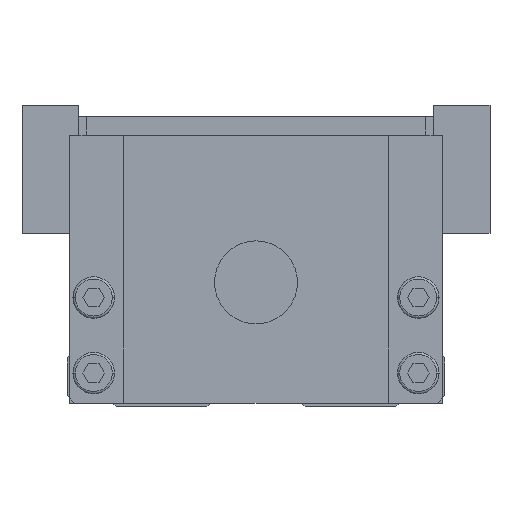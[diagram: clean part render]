
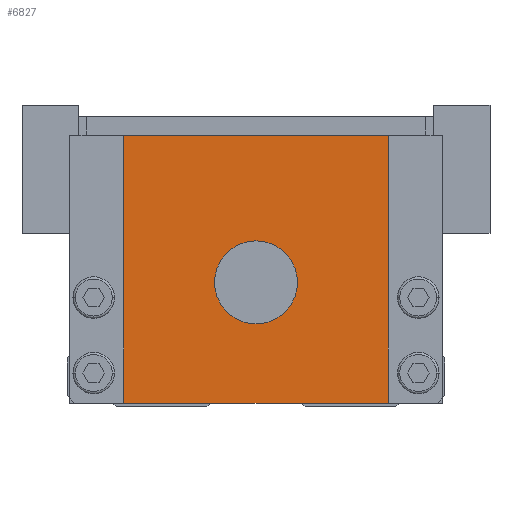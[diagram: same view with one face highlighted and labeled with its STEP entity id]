
A CAD part, front view. The second image highlights one B-rep face of the part: STEP entity #6827.
In plain terms, the highlighted planar face has unit normal (0, -1, 0).
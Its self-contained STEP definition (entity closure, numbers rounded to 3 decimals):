
#6679=VERTEX_POINT('',#19091);
#6827=ADVANCED_FACE('',(#19250,#19251),#19252,.F.);
#8427=VERTEX_POINT('',#21038);
#8957=EDGE_CURVE('',#6679,#9735,#21633,.T.);
#9291=EDGE_CURVE('',#17875,#8427,#22014,.T.);
#9735=VERTEX_POINT('',#22512);
#10231=EDGE_CURVE('',#11527,#17363,#23079,.T.);
#11161=EDGE_CURVE('',#17363,#9735,#24105,.T.);
#11527=VERTEX_POINT('',#24508);
#14089=EDGE_CURVE('',#8427,#17875,#27329,.T.);
#16933=EDGE_CURVE('',#6679,#11527,#30498,.T.);
#17363=VERTEX_POINT('',#30974);
#17875=VERTEX_POINT('',#31552);
#19091=CARTESIAN_POINT('',(-17.5,0.0,36.0));
#19250=FACE_BOUND('',#33329,.T.);
#19251=FACE_OUTER_BOUND('',#33330,.T.);
#19252=PLANE('',#33331);
#21038=CARTESIAN_POINT('',(-5.5,0.0,16.5));
#21633=LINE('',#36708,#36709);
#22014=CIRCLE('',#37202,5.5);
#22512=CARTESIAN_POINT('',(-17.5,0.0,0.5));
#23079=LINE('',#38855,#38856);
#24105=LINE('',#40416,#40417);
#24508=CARTESIAN_POINT('',(17.5,0.0,36.0));
#27329=CIRCLE('',#44886,5.5);
#30498=LINE('',#49431,#49432);
#30974=CARTESIAN_POINT('',(17.5,0.0,0.5));
#31552=CARTESIAN_POINT('',(5.5,0.0,16.5));
#33329=EDGE_LOOP('',(#52815,#52816));
#33330=EDGE_LOOP('',(#52817,#52818,#52819,#52820));
#33331=AXIS2_PLACEMENT_3D('',#52821,#52822,#52823);
#36708=CARTESIAN_POINT('',(-17.5,0.0,18.25));
#36709=VECTOR('',#55652,1.0);
#37202=AXIS2_PLACEMENT_3D('',#56120,#56121,#56122);
#38855=CARTESIAN_POINT('',(17.5,0.0,18.25));
#38856=VECTOR('',#57474,1.0);
#40416=CARTESIAN_POINT('',(0.0,0.0,0.5));
#40417=VECTOR('',#58582,1.0);
#44886=AXIS2_PLACEMENT_3D('',#62096,#62097,#62098);
#49431=CARTESIAN_POINT('',(0.0,0.0,36.0));
#49432=VECTOR('',#65726,1.0);
#52815=ORIENTED_EDGE('',*,*,#9291,.T.);
#52816=ORIENTED_EDGE('',*,*,#14089,.T.);
#52817=ORIENTED_EDGE('',*,*,#8957,.T.);
#52818=ORIENTED_EDGE('',*,*,#11161,.F.);
#52819=ORIENTED_EDGE('',*,*,#10231,.F.);
#52820=ORIENTED_EDGE('',*,*,#16933,.F.);
#52821=CARTESIAN_POINT('',(0.0,0.0,18.25));
#52822=DIRECTION('',(0.0,1.0,0.0));
#52823=DIRECTION('',(0.0,0.0,1.0));
#55652=DIRECTION('',(0.0,0.0,-1.0));
#56120=CARTESIAN_POINT('',(0.0,0.0,16.5));
#56121=DIRECTION('',(-0.0,1.0,0.0));
#56122=DIRECTION('',(1.0,0.0,0.0));
#57474=DIRECTION('',(0.0,0.0,-1.0));
#58582=DIRECTION('',(-1.0,0.0,0.0));
#62096=CARTESIAN_POINT('',(0.0,0.0,16.5));
#62097=DIRECTION('',(-0.0,1.0,0.0));
#62098=DIRECTION('',(1.0,0.0,0.0));
#65726=DIRECTION('',(1.0,0.0,0.0));
